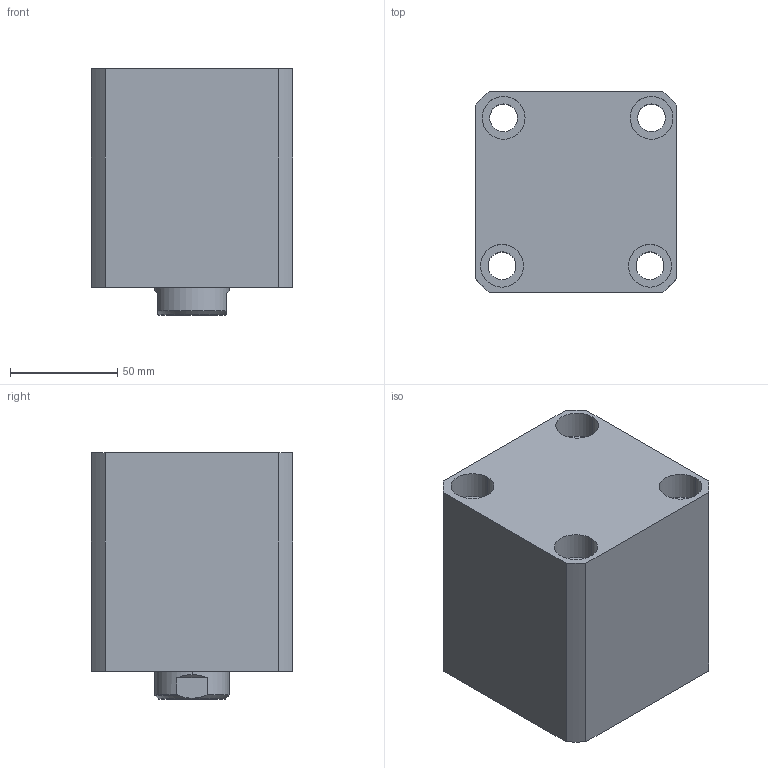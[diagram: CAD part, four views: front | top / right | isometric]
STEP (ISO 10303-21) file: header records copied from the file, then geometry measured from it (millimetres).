
FILE_DESCRIPTION (( 'STEP AP214' ), '1' );
FILE_NAME ('chtb-sdma63x35n_asm.STEP', '2018-05-16T02:30:52', ( 'Windows' ), ( 'Microsoft' ), 'SwSTEP 2.0', 'SolidWorks 2015', '' );
FILE_SCHEMA (( 'AUTOMOTIVE_DESIGN' ));
Length unit declared in the file: millimetre
Products named in the file (4): CHTB-SDMA63X35NBT; CHTB63X35NHSG; CHTB-63QG; chtb-sdma63x35n_asm
Assembly tree (3 placements, depth 2):
  chtb-sdma63x35n_asm
    CHTB-63QG
    CHTB63X35NHSG
    CHTB-SDMA63X35NBT
Bounding box: 94 x 94 x 115 mm (x, y, z)
Volume: 744765.7 mm3; surface area: 132883.7 mm2
Topology: 3 solids, 3 shells, 165 faces, 472 edges, 321 vertices
Faces by surface type: cylinder 107, plane 31, bspline 12, cone 8, torus 7
Entity records: 17727 total; most frequent: CARTESIAN_POINT 13576, ORIENTED_EDGE 932, DIRECTION 716, EDGE_CURVE 466, VERTEX_POINT 321, AXIS2_PLACEMENT_3D 288, EDGE_LOOP 197, FACE_OUTER_BOUND 165
